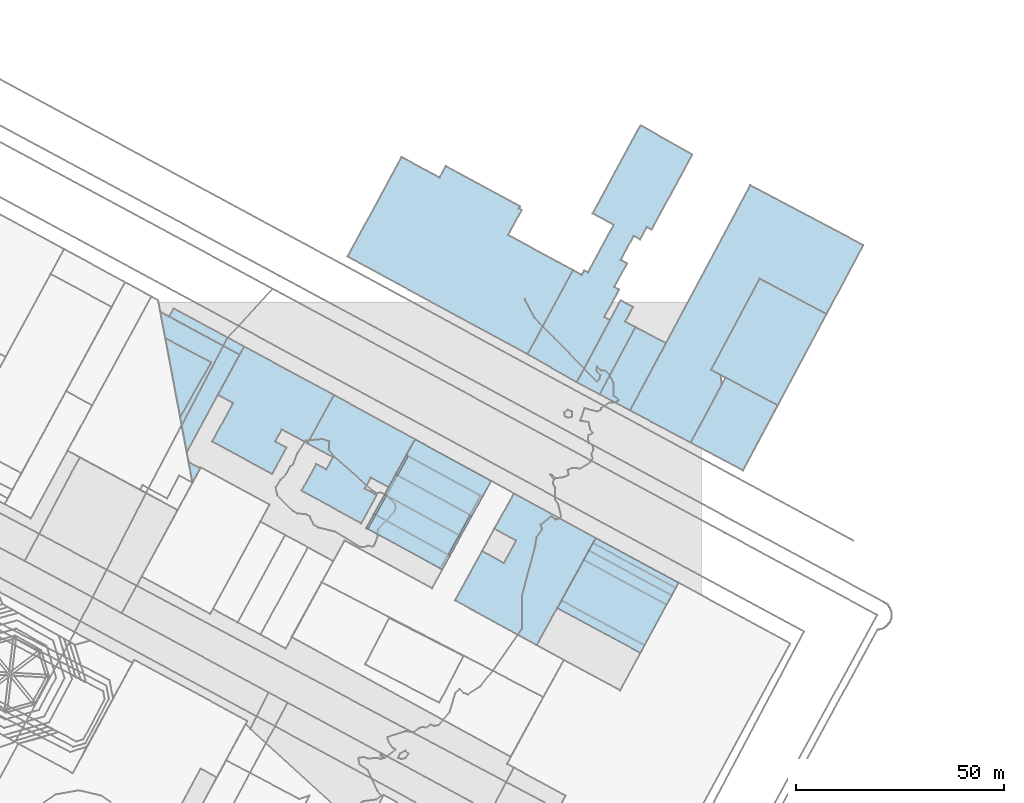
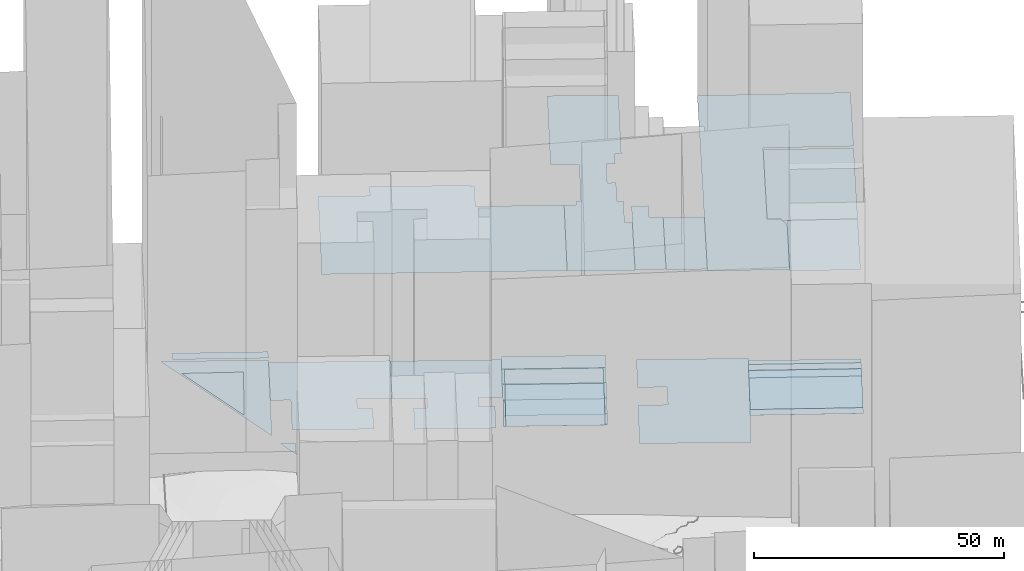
# Not in any storey, part 13 of 76: 33 footings.
"""IFC2X3 model written with IfcOpenShell, lengths in metres."""

from ifc_helpers import new_model, si_unit, frame, origin_with_axes, place, context, subcontext, project, faceted_brep, element, save


model = new_model("IFC2X3")

# Units and contexts
model_context = context("Model", 3, precision=1e-05, world=origin_with_axes())
body_context = subcontext(model_context, "Body", "Model", "MODEL_VIEW")
ifc_project = project(units=[si_unit("AREAUNIT", "SQUARE_METRE"), si_unit("LENGTHUNIT", "METRE")], contexts=[model_context])

# Footings
footing_1_placement = place(None, frame((313.0644675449, 307.8623711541, 19.1866417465), z_axis=(0.0, 0.0, 1.0), x_axis=(1.0, 0.0, 0.0)))
element("IfcFooting", 1, at=footing_1_placement, Name="Sol 0", PredefinedType="STRIP_FOOTING", context=body_context, shape_type="Brep", body=[
    faceted_brep([(19.658559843, -10.751216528, 0.0), (0.0, 0.0, 0.0), (6.5141444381, 11.8220445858, 0.0), (14.1606600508, 25.7112014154, 0.0), (33.8190454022, 14.9711235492, 0.0), (14.7234881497, 14.349038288, 0.0), (9.4817474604, 17.2189943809, 0.0), (11.7557583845, 8.9631871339, 0.0)], [[[0, 1, 2]], [[3, 4, 0]], [[5, 6, 3]], [[0, 2, 7]], [[5, 3, 0]], [[0, 7, 5]]]),
])
footing_2_placement = place(None, frame((337.6756915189, 306.0173396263, 18.6021443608), z_axis=(0.0, 0.0, 1.0), x_axis=(1.0, 0.0, 0.0)))
element("IfcFooting", 2, at=footing_2_placement, Name="Sol 0", PredefinedType="STRIP_FOOTING", context=body_context, shape_type="Brep", body=[
    faceted_brep([(19.9288194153, -10.7591061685, 0.0), (0.0, 0.0, 0.0), (9.2078214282, 16.816155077, 0.0), (29.0941508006, 6.0787837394, 0.0)], [[[0, 1, 2]], [[2, 3, 0]]]),
])
footing_3_placement = place(None, frame((337.6756915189, 306.0173396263, 18.6175268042), z_axis=(0.0, 0.0, 1.0), x_axis=(1.0, 0.0, 0.0)))
element("IfcFooting", 3, at=footing_3_placement, Name="Sol 0", PredefinedType="STRIP_FOOTING", context=body_context, shape_type="Brep", body=[
    faceted_brep([(19.9288194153, -10.7591061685, 0.0), (0.0, 0.0, 0.0), (0.9833137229, 1.8211215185, 0.0), (20.9205700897, -8.9378836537, 0.0)], [[[0, 1, 2]], [[2, 3, 0]]]),
])
footing_4_placement = place(None, frame((338.6590052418, 307.8384611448, 18.5825367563), z_axis=(0.0, 0.0, 1.0), x_axis=(1.0, 0.0, 0.0)))
element("IfcFooting", 4, at=footing_4_placement, Name="Sol 0", PredefinedType="STRIP_FOOTING", context=body_context, shape_type="Brep", body=[
    faceted_brep([(19.9372563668, -10.7590051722, 0.0), (0.0, 0.0, 0.0), (5.3058816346, 9.7429734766, 0.0), (25.2348095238, -1.0272163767, 0.0)], [[[0, 1, 2]], [[2, 3, 0]]]),
])
footing_5_placement = place(None, frame((369.7036563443, 345.7479637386, 18.6004102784), z_axis=(0.0, 0.0, 1.0), x_axis=(1.0, 0.0, 0.0)))
element("IfcFooting", 5, at=footing_5_placement, Name="Sol 0", PredefinedType="STRIP_FOOTING", context=body_context, shape_type="Brep", body=[
    faceted_brep([(12.5538989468, -6.6594085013, 0.0), (0.0, 0.0, 0.0), (8.3520704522, 15.6293873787, 0.0), (20.9058219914, 8.9810939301, 0.0)], [[[0, 1, 2]], [[2, 3, 0]]]),
])
footing_6_placement = place(None, frame((369.7036563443, 345.7479637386, 18.6004102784), z_axis=(0.0, 0.0, 1.0), x_axis=(1.0, 0.0, 0.0)))
element("IfcFooting", 6, at=footing_6_placement, Name="Sol 0", PredefinedType="STRIP_FOOTING", context=body_context, shape_type="Brep", body=[
    faceted_brep([(12.5538989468, -6.6594085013, 0.0), (0.0, 0.0, 0.0), (8.3520704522, 15.6293873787, 0.0), (16.5756487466, 39.3841472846, 0.0), (32.6119575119, 30.8779721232, 0.0), (4.8696102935, 17.4761939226, 0.0)], [[[0, 1, 2]], [[3, 4, 0]], [[2, 5, 3]], [[3, 0, 2]]]),
])
footing_7_placement = place(None, frame((347.815184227, 357.3501845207, 19.4967408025), z_axis=(0.0, 0.0, 1.0), x_axis=(1.0, 0.0, 0.0)))
element("IfcFooting", 7, at=footing_7_placement, Name="Sol 0", PredefinedType="STRIP_FOOTING", context=body_context, shape_type="Brep", body=[
    faceted_brep([(7.30458982, -3.8673156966, 0.0), (0.0, 0.0, 0.0), (8.6248078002, 16.13214132, 0.0), (15.9293867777, 12.2648342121, 0.0)], [[[0, 1, 2]], [[2, 3, 0]]]),
])
footing_8_placement = place(None, frame((342.3281774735, 360.2616784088, 19.6845045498), z_axis=(0.0, 0.0, 1.0), x_axis=(1.0, 0.0, 0.0)))
element("IfcFooting", 8, at=footing_8_placement, Name="Sol 0", PredefinedType="STRIP_FOOTING", context=body_context, shape_type="Brep", body=[
    faceted_brep([(5.4870067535, -2.9114938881, 0.0), (0.0, 0.0, 0.0), (10.4999972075, 19.6511924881, 0.0), (11.6146310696, 14.5460328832, 0.0), (14.1118145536, 13.2206474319, 0.0), (13.4982515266, 18.0651895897, 0.0)], [[[0, 1, 2]], [[3, 4, 0]], [[2, 5, 3]], [[3, 0, 2]]]),
])
footing_9_placement = place(None, frame((291.7498532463, 325.277922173, 20.2810071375), z_axis=(0.0, 0.0, 1.0), x_axis=(1.0, 0.0, 0.0)))
element("IfcFooting", 9, at=footing_9_placement, Name="Sol 0", PredefinedType="STRIP_FOOTING", context=body_context, shape_type="Brep", body=[
    faceted_brep([(18.2821181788, -9.9901391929, 0.0), (0.0, 0.0, 0.0), (11.7137108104, 21.2750732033, 0.0), (29.9957941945, 11.2849631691, 0.0)], [[[0, 1, 2]], [[2, 3, 0]]]),
])
footing_10_placement = place(None, frame((296.5802961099, 333.0835325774, 20.3677468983), z_axis=(0.0, 0.0, 1.0), x_axis=(1.0, 0.0, 0.0)))
element("IfcFooting", 10, at=footing_10_placement, Name="Sol 0", PredefinedType="STRIP_FOOTING", context=body_context, shape_type="Brep", body=[
    faceted_brep([(17.4583642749, -9.5667304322, 0.0), (0.0, 0.0, 0.0), (2.6876256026, 4.7941587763, 0.0), (20.0861254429, -4.7066486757, 0.0)], [[[0, 1, 2]], [[2, 3, 0]]]),
])
footing_11_placement = place(None, frame((292.1322472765, 325.0603282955, 20.29910505), z_axis=(0.0, 0.0, 1.0), x_axis=(1.0, 0.0, 0.0)))
element("IfcFooting", 11, at=footing_11_placement, Name="Sol 0", PredefinedType="STRIP_FOOTING", context=body_context, shape_type="Brep", body=[
    faceted_brep([(17.4495487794, -9.5335370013, 0.0), (0.0, 0.0, 0.0), (9.6733115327, 17.4432428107, 0.0), (27.0802443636, 7.9425396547, 0.0)], [[[0, 1, 2]], [[2, 3, 0]]]),
])
footing_12_placement = place(None, frame((294.0094084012, 328.4128587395, 20.2723875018), z_axis=(0.0, 0.0, 1.0), x_axis=(1.0, 0.0, 0.0)))
element("IfcFooting", 12, at=footing_12_placement, Name="Sol 0", PredefinedType="STRIP_FOOTING", context=body_context, shape_type="Brep", body=[
    faceted_brep([(17.4333093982, -9.5892328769, 0.0), (0.0, 0.0, 0.0), (5.2585133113, 9.4648326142, 0.0), (22.6570131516, -0.0359748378, 0.0)], [[[0, 1, 2]], [[2, 3, 0]]]),
])
footing_13_placement = place(None, frame((296.1724525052, 333.3119322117, 20.3484595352), z_axis=(0.0, 0.0, 1.0), x_axis=(1.0, 0.0, 0.0)))
element("IfcFooting", 13, at=footing_13_placement, Name="Sol 0", PredefinedType="STRIP_FOOTING", context=body_context, shape_type="Brep", body=[
    faceted_brep([(0.4078436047, -0.2283996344, 0.0), (0.0, 0.0, 0.0), (2.6536065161, 4.8159671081, 0.0), (3.0954692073, 4.5657591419, 0.0)], [[[0, 1, 2]], [[2, 3, 0]]]),
])
footing_14_placement = place(None, frame((298.8260590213, 338.1278993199, 20.4512900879), z_axis=(0.0, 0.0, 1.0), x_axis=(1.0, 0.0, 0.0)))
element("IfcFooting", 14, at=footing_14_placement, Name="Sol 0", PredefinedType="STRIP_FOOTING", context=body_context, shape_type="Brep", body=[
    faceted_brep([(0.4418626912, -0.2502079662, 0.0), (0.0, 0.0, 0.0), (2.5462067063, 4.6148771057, 0.0), (2.9794997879, 4.3756717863, 0.0)], [[[0, 1, 2]], [[2, 3, 0]]]),
])
footing_15_placement = place(None, frame((301.3722657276, 342.7427764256, 20.3932714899), z_axis=(0.0, 0.0, 1.0), x_axis=(1.0, 0.0, 0.0)))
element("IfcFooting", 15, at=footing_15_placement, Name="Sol 0", PredefinedType="STRIP_FOOTING", context=body_context, shape_type="Brep", body=[
    faceted_brep([(18.2820896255, -9.9901152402, 0.0), (0.0, 0.0, 0.0), (2.0912983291, 3.8102189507, 0.0), (20.3733817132, -6.1798910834, 0.0)], [[[0, 1, 2]], [[2, 3, 0]]]),
])
footing_16_placement = place(None, frame((287.2771431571, 390.440545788, 19.5504613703), z_axis=(0.0, 0.0, 1.0), x_axis=(1.0, 0.0, 0.0)))
element("IfcFooting", 16, at=footing_16_placement, Name="Sol 0", PredefinedType="STRIP_FOOTING", context=body_context, shape_type="Brep", body=[
    faceted_brep([(43.2307270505, -23.4442358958, 0.0), (0.0, 0.0, 0.0), (12.9658813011, 23.9208852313, 0.0), (38.558435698, 5.1896020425, 0.0), (54.1635554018, -3.2662126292, 0.0), (41.1511824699, 11.603598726, 0.0), (41.8392282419, 11.2341347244, 0.0), (23.5851064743, 21.7352532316, 0.0), (41.4073966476, 12.0728777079, 0.0), (22.0893707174, 18.9755783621, 0.0)], [[[0, 1, 2]], [[3, 4, 0]], [[5, 6, 3]], [[7, 8, 5]], [[0, 2, 9]], [[7, 5, 3]], [[0, 9, 7]], [[7, 3, 0]]]),
])
footing_17_placement = place(None, frame((330.5078702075, 366.9963098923, 19.4574403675), z_axis=(0.0, 0.0, 1.0), x_axis=(1.0, 0.0, 0.0)))
element("IfcFooting", 17, at=footing_17_placement, Name="Sol 0", PredefinedType="STRIP_FOOTING", context=body_context, shape_type="Brep", body=[
    faceted_brep([(11.820307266, -6.7346314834, 0.0), (0.0, 0.0, 0.0), (10.9328283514, 20.1780232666, 0.0), (18.4247873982, 8.9187760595, 0.0), (19.7924457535, 8.1797535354, 0.0), (20.8307096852, 16.1521722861, 0.0), (22.0029504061, 15.5218964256, 0.0), (22.3588177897, 22.6536963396, 0.0), (23.9048809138, 21.8168325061, 0.0), (28.6399501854, 30.5539667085, 0.0), (27.0285242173, 27.5819909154, 0.0), (25.4824619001, 28.4188540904, 0.0), (39.5792805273, 47.9898524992, 0.0), (29.8037492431, 29.9235937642, 0.0), (15.6529613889, 33.8221759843, 0.0), (27.1227912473, 54.9945837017, 0.0), (13.0395606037, 19.036824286, 0.0), (13.6345794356, 20.1317770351, 0.0), (14.5094742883, 19.6645705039, 0.0), (20.6989844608, 31.0831847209, 0.0)], [[[0, 1, 2]], [[3, 4, 0]], [[5, 6, 3]], [[7, 8, 5]], [[9, 10, 11]], [[12, 13, 9]], [[14, 15, 12]], [[16, 17, 18]], [[0, 2, 16]], [[5, 3, 0]], [[12, 9, 11]], [[19, 14, 12]], [[0, 16, 18]], [[7, 5, 0]], [[19, 12, 11]], [[0, 18, 19]], [[19, 11, 7]], [[7, 0, 19]]]),
])
footing_18_placement = place(None, frame((355.1197740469, 353.4828688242, 19.0004593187), z_axis=(0.0, 0.0, 1.0), x_axis=(1.0, 0.0, 0.0)))
element("IfcFooting", 18, at=footing_18_placement, Name="Sol 0", PredefinedType="STRIP_FOOTING", context=body_context, shape_type="Brep", body=[
    faceted_brep([(14.5838822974, -7.7349050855, 0.0), (0.0, 0.0, 0.0), (28.9225776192, 54.1052639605, 0.0), (21.7807161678, 8.5138501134, 0.0), (22.0519980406, 6.2410466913, 0.0), (56.0517837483, 39.7109589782, 0.0), (47.1958398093, 23.1430670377, 0.0), (31.159531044, 31.649242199, 0.0), (19.4534925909, 9.741288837, 0.0)], [[[0, 1, 2]], [[3, 4, 0]], [[5, 6, 7]], [[8, 3, 0]], [[2, 5, 7]], [[8, 0, 2]], [[2, 7, 8]]]),
])
footing_19_placement = place(None, frame((244.4280234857, 376.0307569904, 22.4522062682), z_axis=(0.0, 0.0, 1.0), x_axis=(1.0, 0.0, 0.0)))
element("IfcFooting", 19, at=footing_19_placement, Name="Sol 0", PredefinedType="STRIP_FOOTING", context=body_context, shape_type="Brep", body=[
    faceted_brep([(16.9132443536, -9.1624091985, 0.0), (0.0, 0.0, 0.0), (1.0744890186, 1.9664991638, 0.0), (17.9876011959, -7.1848068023, 0.0)], [[[0, 1, 2]], [[2, 3, 0]]]),
])
footing_20_placement = place(None, frame((242.3300029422, 377.1498806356, 22.0498553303), z_axis=(0.0, 0.0, 1.0), x_axis=(1.0, 0.0, 0.0)))
element("IfcFooting", 20, at=footing_20_placement, Name="Sol 0", PredefinedType="STRIP_FOOTING", context=body_context, shape_type="Brep", body=[
    faceted_brep([(1.1962854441, -6.3254728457, 0.0), (0.0, 0.0, 0.0), (19.0112648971, -10.2815328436, 0.0), (6.3508708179, -33.6325728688, 0.0)], [[[0, 1, 2]], [[2, 3, 0]]]),
])
footing_21_placement = place(None, frame((243.5262883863, 370.8244077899, 22.5439694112), z_axis=(0.0, 0.0, 1.0), x_axis=(1.0, 0.0, 0.0)))
element("IfcFooting", 21, at=footing_21_placement, Name="Sol 0", PredefinedType="STRIP_FOOTING", context=body_context, shape_type="Brep", body=[
    faceted_brep([(3.5714703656, -18.9322105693, 0.0), (0.0, 0.0, 0.0), (10.9734042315, -5.7787257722, 0.0)], [[[0, 1, 2]]]),
])
footing_22_placement = place(None, frame((254.7632851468, 346.0194741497, 19.7596316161), z_axis=(0.0, 0.0, 1.0), x_axis=(1.0, 0.0, 0.0)))
element("IfcFooting", 22, at=footing_22_placement, Name="Sol 0", PredefinedType="STRIP_FOOTING", context=body_context, shape_type="Brep", body=[
    faceted_brep([(14.39900645, -7.8149674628, 0.0), (0.0, 0.0, 0.0), (5.0248078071, 9.2400392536, 0.0), (15.1187039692, -0.0239066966, 0.0), (17.8285654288, -1.4911744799, 0.0), (29.2543177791, 11.1651612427, 0.0), (22.8641716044, -0.4333637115, 0.0), (16.7053721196, 2.9033513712, 0.0), (1.3634529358, 11.2291484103, 0.0), (7.6523395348, 22.8264760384, 0.0)], [[[0, 1, 2]], [[3, 4, 0]], [[5, 6, 7]], [[8, 9, 5]], [[3, 0, 2]], [[8, 5, 7]], [[7, 3, 2]], [[2, 8, 7]]]),
])
footing_23_placement = place(None, frame((276.2236412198, 334.2010560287, 19.6540468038), z_axis=(0.0, 0.0, 1.0), x_axis=(1.0, 0.0, 0.0)))
element("IfcFooting", 23, at=footing_23_placement, Name="Sol 0", PredefinedType="STRIP_FOOTING", context=body_context, shape_type="Brep", body=[
    faceted_brep([(14.3402296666, -7.8378155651, 0.0), (0.0, 0.0, 0.0), (3.554736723, 6.4473781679, 0.0), (15.1800483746, 0.5097591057, 0.0), (18.0600146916, -1.0665434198, 0.0), (27.2399228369, 12.3519393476, 0.0), (20.9078444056, 0.8428913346, 0.0), (16.6432091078, 3.1691298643, 0.0), (1.4038155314, 11.3850544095, 0.0), (7.7939617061, 22.9835793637, 0.0), (5.9419365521, 5.1428922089, 0.0), (7.5291182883, 8.0257498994, 0.0)], [[[0, 1, 2]], [[3, 4, 0]], [[5, 6, 7]], [[8, 9, 5]], [[0, 2, 10]], [[8, 5, 7]], [[0, 10, 11]], [[11, 8, 7]], [[3, 0, 11]], [[11, 7, 3]]]),
])
footing_24_placement = place(None, frame((249.1568769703, 341.0581442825, 21.493715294), z_axis=(0.0, 0.0, 1.0), x_axis=(1.0, 0.0, 0.0)))
element("IfcFooting", 24, at=footing_24_placement, Name="Sol 0", PredefinedType="STRIP_FOOTING", context=body_context, shape_type="Brep", body=[
    faceted_brep([(0.8846148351, -4.9302132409, 0.0), (0.0, 0.0, 0.0), (2.7518015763, -1.444582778, 0.0)], [[[0, 1, 2]]]),
])
footing_25_placement = place(None, frame((309.5817960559, 315.5267912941, 20.5242060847), z_axis=(0.0, 0.0, 1.0), x_axis=(1.0, 0.0, 0.0)))
element("IfcFooting", 25, at=footing_25_placement, Name="Sol 0", PredefinedType="STRIP_FOOTING", context=body_context, shape_type="Brep", body=[
    faceted_brep([(0.4501753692, -0.239008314, 0.0), (0.0, 0.0, 0.0), (1.8609217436, 3.2968345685, 0.0), (2.2853885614, 3.0908338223, 0.0)], [[[0, 1, 2]], [[2, 3, 0]]]),
])
footing_26_placement = place(None, frame((343.9648868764, 317.5814346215, 18.5825367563), z_axis=(0.0, 0.0, 1.0), x_axis=(1.0, 0.0, 0.0)))
element("IfcFooting", 26, at=footing_26_placement, Name="Sol 0", PredefinedType="STRIP_FOOTING", context=body_context, shape_type="Brep", body=[
    faceted_brep([(19.9289278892, -10.7701898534, 0.0), (0.0, 0.0, 0.0), (1.2230342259, 2.2569030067, 0.0), (21.1603982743, -8.513185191, 0.0)], [[[0, 1, 2]], [[2, 3, 0]]]),
])
footing_27_placement = place(None, frame((345.1879211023, 319.8383376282, 18.6172280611), z_axis=(0.0, 0.0, 1.0), x_axis=(1.0, 0.0, 0.0)))
element("IfcFooting", 27, at=footing_27_placement, Name="Sol 0", PredefinedType="STRIP_FOOTING", context=body_context, shape_type="Brep", body=[
    faceted_brep([(19.9373640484, -10.7700881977, 0.0), (0.0, 0.0, 0.0), (1.0344684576, 1.777309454, 0.0), (20.9208000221, -8.9600636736, 0.0)], [[[0, 1, 2]], [[2, 3, 0]]]),
])
footing_28_placement = place(None, frame((346.2223895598, 321.6156470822, 18.6021443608), z_axis=(0.0, 0.0, 1.0), x_axis=(1.0, 0.0, 0.0)))
element("IfcFooting", 28, at=footing_28_placement, Name="Sol 0", PredefinedType="STRIP_FOOTING", context=body_context, shape_type="Brep", body=[
    faceted_brep([(19.8863315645, -10.7373731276, 0.0), (0.0, 0.0, 0.0), (0.6611233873, 1.2178476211, 0.0), (20.5474527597, -9.5195237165, 0.0)], [[[0, 1, 2]], [[2, 3, 0]]]),
])
footing_29_placement = place(None, frame((316.6664215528, 328.3768839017, 20.4318162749), z_axis=(0.0, 0.0, 1.0), x_axis=(1.0, 0.0, 0.0)))
element("IfcFooting", 29, at=footing_29_placement, Name="Sol 0", PredefinedType="STRIP_FOOTING", context=body_context, shape_type="Brep", body=[
    faceted_brep([(0.4417346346, -0.2391061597, 0.0), (0.0, 0.0, 0.0), (2.5460700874, 4.6259840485, 0.0), (2.9879338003, 4.3757772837, 0.0)], [[[0, 1, 2]], [[2, 3, 0]]]),
])
footing_30_placement = place(None, frame((311.4427177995, 318.8236258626, 20.4862365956), z_axis=(0.0, 0.0, 1.0), x_axis=(1.0, 0.0, 0.0)))
element("IfcFooting", 30, at=footing_30_placement, Name="Sol 0", PredefinedType="STRIP_FOOTING", context=body_context, shape_type="Brep", body=[
    faceted_brep([(0.4244668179, -0.2060007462, 0.0), (0.0, 0.0, 0.0), (2.5959425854, 4.6931762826, 0.0), (3.003658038, 4.4758783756, 0.0)], [[[0, 1, 2]], [[2, 3, 0]]]),
])
footing_31_placement = place(None, frame((314.0386603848, 323.5168021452, 20.4684876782), z_axis=(0.0, 0.0, 1.0), x_axis=(1.0, 0.0, 0.0)))
element("IfcFooting", 31, at=footing_31_placement, Name="Sol 0", PredefinedType="STRIP_FOOTING", context=body_context, shape_type="Brep", body=[
    faceted_brep([(0.4077154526, -0.217297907, 0.0), (0.0, 0.0, 0.0), (2.6277611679, 4.8600817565, 0.0), (3.0694958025, 4.6209755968, 0.0)], [[[0, 1, 2]], [[2, 3, 0]]]),
])
footing_32_placement = place(None, frame((293.5849426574, 328.6188604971, 20.2483066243), z_axis=(0.0, 0.0, 1.0), x_axis=(1.0, 0.0, 0.0)))
element("IfcFooting", 32, at=footing_32_placement, Name="Sol 0", PredefinedType="STRIP_FOOTING", context=body_context, shape_type="Brep", body=[
    faceted_brep([(0.4244657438, -0.2060017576, 0.0), (0.0, 0.0, 0.0), (2.5875098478, 4.6930717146, 0.0), (2.9953534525, 4.4646720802, 0.0)], [[[0, 1, 2]], [[2, 3, 0]]]),
])
footing_33_placement = place(None, frame((291.7498532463, 325.277922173, 20.2483066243), z_axis=(0.0, 0.0, 1.0), x_axis=(1.0, 0.0, 0.0)))
element("IfcFooting", 33, at=footing_33_placement, Name="Sol 0", PredefinedType="STRIP_FOOTING", context=body_context, shape_type="Brep", body=[
    faceted_brep([(0.3823940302, -0.2175938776, 0.0), (0.0, 0.0, 0.0), (1.8350894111, 3.3409383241, 0.0), (2.2595551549, 3.1349365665, 0.0)], [[[0, 1, 2]], [[2, 3, 0]]]),
])

save(model, "model.ifc")
